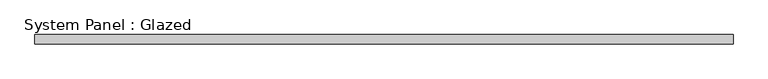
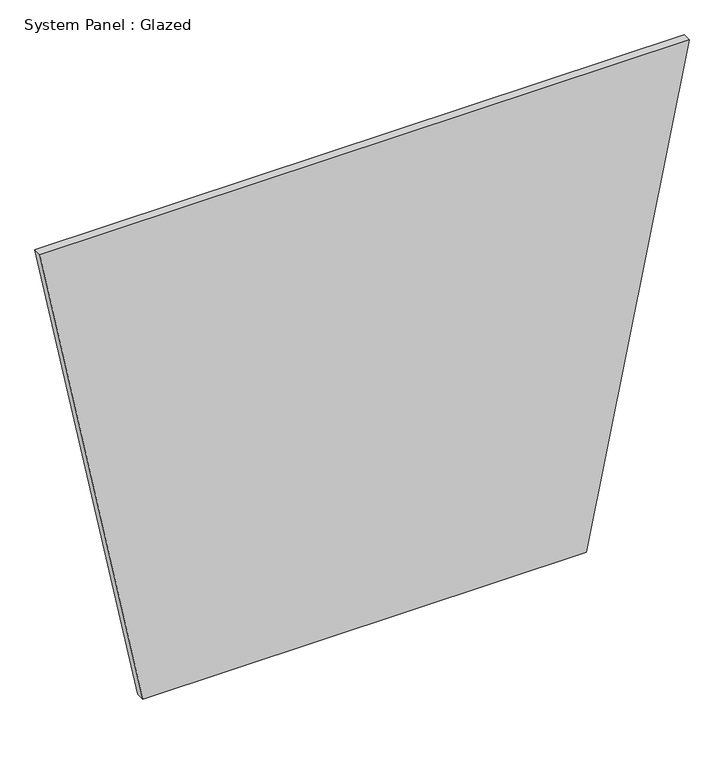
"""IFC4 building model written with IfcOpenShell, lengths in millimetres: plate geometry, System Panel : Glazed."""

from ifc_helpers import new_model, si_unit, frame, origin, place, context, project, spatial, polyline, outline, extrude, source, transform, mapped, element, save


def system_panel_glazed_94d2837d(model_context):
    return source(origin(), model_context, "Body", "SweptSolid", [
        extrude(outline(polyline([(0.0, -654.7171404), (0.0, 654.7171404), (1493.3788447, 958.6836288), (1493.3788447, -958.6836288), (0.0, -654.7171404)])), frame((0.0, 19.05, 0.0), z_axis=(0.0, 1.0, 0.0), x_axis=(0.0, 0.0, 1.0)), (0.0, 0.0, 1.0), 25.4),
    ])


if __name__ == "__main__":
    model = new_model("IFC4")
    model_context = context("Model", 3, world=origin())
    ifc_project = project(units=[si_unit("LENGTHUNIT", "METRE", prefix="MILLI")], contexts=[model_context])
    site = spatial("IfcSite", under=ifc_project)
    building = spatial("IfcBuilding", under=site)
    placement = place(None, origin())
    system_panel_glazed_shape = system_panel_glazed_94d2837d(model_context)
    element("IfcPlate", 1, ObjectType="System Panel : Glazed", at=placement, inside=building, context=model_context, shape_type="MappedRepresentation", body=[
        mapped(system_panel_glazed_shape, transform((0.0, 0.0, 0.0), x_axis=(1.0, 0.0, 0.0), y_axis=(0.0, 1.0, 0.0), z_axis=(0.0, 0.0, 1.0))),
    ])
    save(model, "model.ifc")
